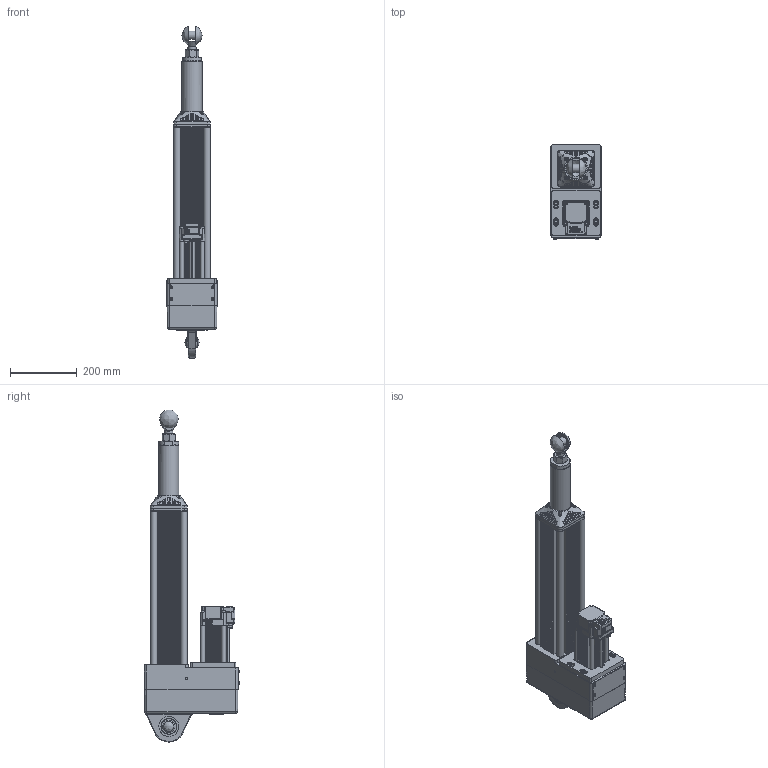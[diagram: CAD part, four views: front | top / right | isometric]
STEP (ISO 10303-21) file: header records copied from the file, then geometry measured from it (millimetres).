
FILE_DESCRIPTION (( 'STEP AP214' ), '1' );
FILE_NAME ('AG_9843 +-150.STEP', '2025-01-30T12:43:03', ( '' ), ( '' ), 'SwSTEP 2.0', 'SolidWorks 2022', '' );
FILE_SCHEMA (( 'AUTOMOTIVE_DESIGN' ));
Length unit declared in the file: millimetre
Products named in the file (1): AG_9843 +-150
Bounding box: 150 x 284.75 x 994.77 mm (x, y, z)
Volume: 14080528.4 mm3; surface area: 1408554.6 mm2
Topology: 62 solids, 63 shells, 4421 faces, 11357 edges, 7389 vertices
Faces by surface type: plane 1923, cylinder 1175, bspline 900, cone 251, torus 153, sphere 19
Full cylindrical faces by diameter (mm): 2.5 x2, 2.845 x2, 2.934 x2, 3 x2, 3.24 x1, 3.242 x1, 3.5 x2, 3.676 x1, 4.019 x8, 4.2 x9, 4.201 x1, 4.3 x1, 4.773 x4, 5 x12, 5.5 x4, 5.7 x1, 5.9 x1, 6 x4, 6.466 x1, 6.6 x4, 6.8 x2, 6.9 x3, 7 x1, 7.8 x1, 8 x7, 8.1 x1, 8.16 x10, 8.49 x4, 8.5 x13, 9 x1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
Entity records: 218793 total; most frequent: CARTESIAN_POINT 68774, ORIENTED_EDGE 21900, DIRECTION 18752, EDGE_CURVE 10950, VERTEX_POINT 7303, AXIS2_PLACEMENT_3D 6442, VECTOR 5868, LINE 5868
